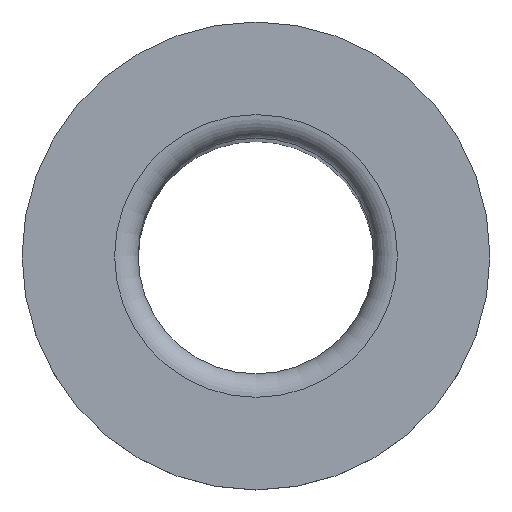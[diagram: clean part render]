
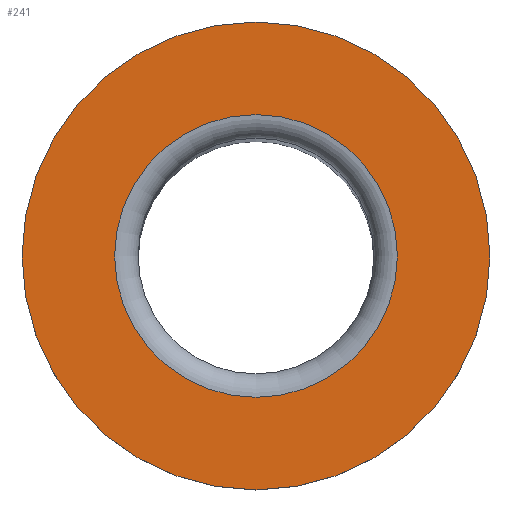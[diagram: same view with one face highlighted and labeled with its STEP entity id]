
A CAD part, top view. The second image highlights one B-rep face of the part: STEP entity #241.
In plain terms, the highlighted planar face has unit normal (0, 0, 1).
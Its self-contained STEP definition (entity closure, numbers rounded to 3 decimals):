
#1 = DIRECTION ( 'NONE',  ( 0., 0., -1. ) ) ;
#14 = DIRECTION ( 'NONE',  ( -1., 0., 0. ) ) ;
#18 = CARTESIAN_POINT ( 'NONE',  ( 0., 3.96, 0. ) ) ;
#23 = FACE_OUTER_BOUND ( 'NONE', #107, .T. ) ;
#36 = PLANE ( 'NONE',  #145 ) ;
#51 = CARTESIAN_POINT ( 'NONE',  ( 0., 0., 0. ) ) ;
#54 = EDGE_LOOP ( 'NONE', ( #249 ) ) ;
#74 = DIRECTION ( 'NONE',  ( 0., 0., -1. ) ) ;
#80 = CARTESIAN_POINT ( 'NONE',  ( 7.86, 0., 0. ) ) ;
#82 = EDGE_CURVE ( 'NONE', #109, #109, #100, .T. ) ;
#88 = CIRCLE ( 'NONE', #200, 7.86 ) ;
#97 = DIRECTION ( 'NONE',  ( 1., 0., 0. ) ) ;
#100 = CIRCLE ( 'NONE', #214, 4.75 ) ;
#107 = EDGE_LOOP ( 'NONE', ( #217 ) ) ;
#109 = VERTEX_POINT ( 'NONE', #194 ) ;
#145 = AXIS2_PLACEMENT_3D ( 'NONE', #18, #1, #14 ) ;
#150 = DIRECTION ( 'NONE',  ( -1., 0., 0. ) ) ;
#163 = EDGE_CURVE ( 'NONE', #180, #180, #88, .T. ) ;
#176 = CARTESIAN_POINT ( 'NONE',  ( 0., 0., 0. ) ) ;
#180 = VERTEX_POINT ( 'NONE', #80 ) ;
#194 = CARTESIAN_POINT ( 'NONE',  ( -4.75, 0., 0. ) ) ;
#200 = AXIS2_PLACEMENT_3D ( 'NONE', #176, #230, #97 ) ;
#214 = AXIS2_PLACEMENT_3D ( 'NONE', #51, #74, #150 ) ;
#217 = ORIENTED_EDGE ( 'NONE', *, *, #163, .T. ) ;
#230 = DIRECTION ( 'NONE',  ( 0., 0., 1. ) ) ;
#234 = FACE_BOUND ( 'NONE', #54, .T. ) ;
#241 = ADVANCED_FACE ( 'NONE', ( #234, #23 ), #36, .F. ) ;
#249 = ORIENTED_EDGE ( 'NONE', *, *, #82, .T. ) ;
